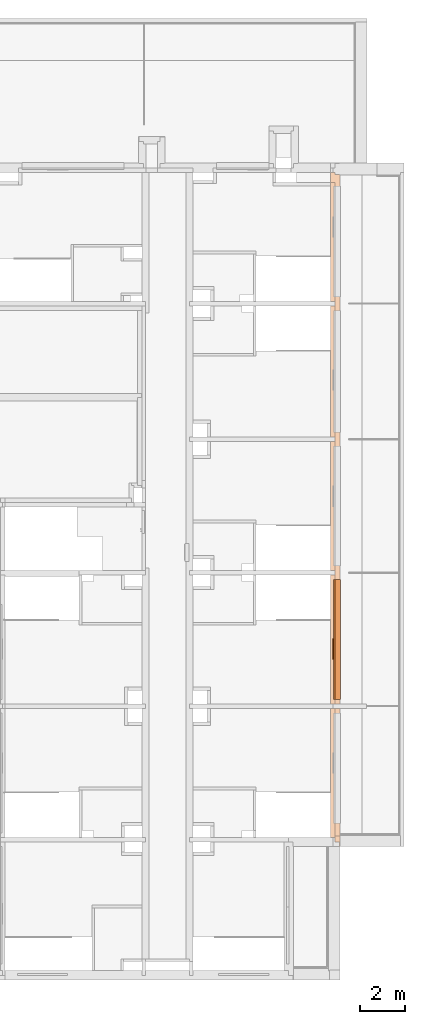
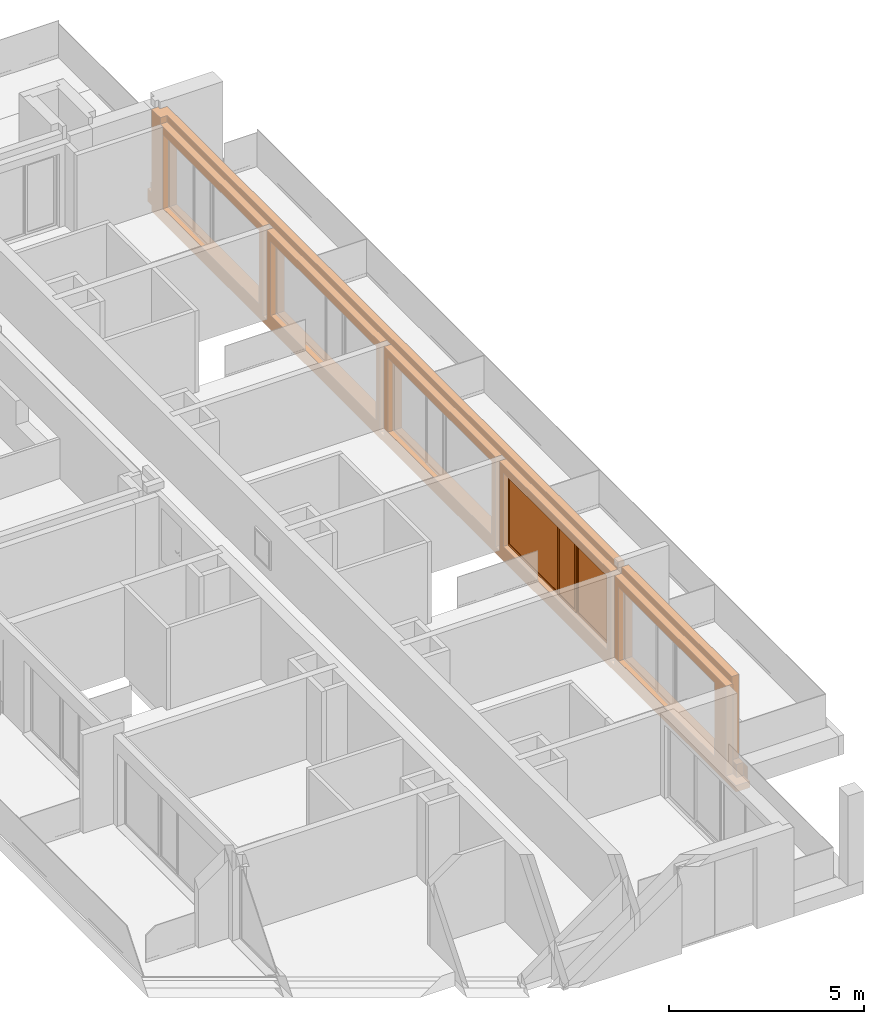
# One storey, part 13 of 30: 1 proxy, 5 openings, plus 1 element that does not belong to this part.
"""IFC2X3 building model written with IfcOpenShell, lengths in millimetres."""

import ifcopenshell
import ifcopenshell.guid

model = None  # the IFC model being written
_history = None  # IfcOwnerHistory: only IFC2X3 demands one
_inside = {}  # id of a spatial element -> (the spatial element, [elements in it])
_under = {}  # id of a project, library or spatial element -> (it, [spatial elements below it])
_declared = {}  # id of a project -> (the project, [libraries it declares])
_typed = {}  # id of a type object -> (the type object, [elements of that type])
_made_of = {}  # id of a material, layer set ... -> (it, [elements and type objects made of it])


def new_model(schema):
    """Start an empty IFC model of exactly this schema.

    Asked for "IFC4X3", IfcOpenShell would pick the latest addendum, in which some entities
    have other attributes; the version numbers below select the first issue.
    IFC2X3 requires an IfcOwnerHistory on every rooted entity: one is made here for all.
    """
    global model, _history
    if schema == "IFC4X3":
        model = ifcopenshell.file(schema_version=(4, 3, 0, 0))
    else:
        model = ifcopenshell.file(schema=schema)
    _inside.clear()
    _under.clear()
    _declared.clear()
    _typed.clear()
    _made_of.clear()
    _history = None
    if model.schema == "IFC2X3":
        org = make("IfcOrganization", Name="unknown")
        user = make(
            "IfcPersonAndOrganization",
            ThePerson=make("IfcPerson", FamilyName="unknown"),
            TheOrganization=org,
        )
        app = make(
            "IfcApplication",
            ApplicationDeveloper=org,
            Version="unknown",
            ApplicationFullName="unknown",
            ApplicationIdentifier="unknown",
        )
        _history = make(
            "IfcOwnerHistory",
            OwningUser=user,
            OwningApplication=app,
            ChangeAction="ADDED",
            CreationDate=0,
        )
    return model


def make(cls, **values):
    """One entity of the class cls with the attributes given. An attribute that is None is left unset."""
    return model.create_entity(
        cls, **{name: value for name, value in values.items() if value is not None}
    )


def entity(cls, *values):
    """Any entity or typed value of the class cls, its attributes in the order of the schema. None: left unset."""
    e = model.create_entity(cls)
    for i, value in enumerate(values):
        if value is not None:
            e[i] = value
    return e


def rooted(cls, **values):
    """An entity with a GlobalId (a new one), such as an element, a storey or a relation."""
    return make(cls, GlobalId=ifcopenshell.guid.new(), OwnerHistory=_history, **values)


def si_unit(unit_type, name, prefix=None):
    """IfcSIUnit, for example si_unit("LENGTHUNIT", "METRE", prefix="MILLI")."""
    return make("IfcSIUnit", UnitType=unit_type, Prefix=prefix, Name=name)


def converted_unit(unit_type, name, factor, base, dimensions=None, offset=None):
    """IfcConversionBasedUnit, such as the inch: factor (a typed value) times the base unit."""
    return make(
        "IfcConversionBasedUnit"
        if offset is None
        else "IfcConversionBasedUnitWithOffset",
        ConversionOffset=offset,
        Dimensions=None
        if dimensions is None
        else entity("IfcDimensionalExponents", *dimensions),
        UnitType=unit_type,
        Name=name,
        ConversionFactor=make(
            "IfcMeasureWithUnit", ValueComponent=factor, UnitComponent=base
        ),
    )


def derived_unit(unit_type, elements):
    """IfcDerivedUnit: a product of units, each with its exponent."""
    return make(
        "IfcDerivedUnit",
        Elements=[
            make("IfcDerivedUnitElement", Unit=unit, Exponent=power)
            for unit, power in elements
        ],
        UnitType=unit_type,
    )


def money_unit(currency):
    """IfcMonetaryUnit."""
    return make("IfcMonetaryUnit", Currency=currency)


def assignment(units):
    """IfcUnitAssignment: the units of a project."""
    return None if units is None else make("IfcUnitAssignment", Units=units)


def point(xyz):
    """IfcCartesianPoint."""
    return None if xyz is None else make("IfcCartesianPoint", Coordinates=xyz)


def direction(xyz):
    """IfcDirection."""
    return None if xyz is None else make("IfcDirection", DirectionRatios=xyz)


def frame(location, z_axis=None, x_axis=None):
    """IfcAxis2Placement3D, a coordinate frame: its origin and axes. An axis left out is left unset."""
    return make(
        "IfcAxis2Placement3D",
        Location=point(location),
        Axis=direction(z_axis),
        RefDirection=direction(x_axis),
    )


def frame_2d(location, x_axis=None):
    """IfcAxis2Placement2D, a coordinate frame in the plane: its origin and x axis."""
    return make(
        "IfcAxis2Placement2D", Location=point(location), RefDirection=direction(x_axis)
    )


def origin_with_axes():
    """The frame at (0, 0, 0) with the z axis (0, 0, 1) and the x axis (1, 0, 0) written out."""
    return frame((0.0, 0.0, 0.0), z_axis=(0.0, 0.0, 1.0), x_axis=(1.0, 0.0, 0.0))


def origin_2d_with_axis():
    """The frame at (0, 0) in the plane with the x axis (1, 0) written out."""
    return frame_2d((0.0, 0.0), x_axis=(1.0, 0.0))


def place(relative_to, where):
    """IfcLocalPlacement: puts the frame where relative to a parent placement (None: the world)."""
    return make(
        "IfcLocalPlacement", PlacementRelTo=relative_to, RelativePlacement=where
    )


def context(
    kind, dimensions, precision=None, world=None, true_north=None, identifier=None
):
    """IfcGeometricRepresentationContext, for example the 3D "Model" context."""
    return make(
        "IfcGeometricRepresentationContext",
        ContextIdentifier=identifier,
        ContextType=kind,
        CoordinateSpaceDimension=dimensions,
        Precision=precision,
        WorldCoordinateSystem=world,
        TrueNorth=true_north,
    )


def subcontext(parent, identifier, kind, view, scale=None):
    """IfcGeometricRepresentationSubContext, for example "Body" below "Model"."""
    return make(
        "IfcGeometricRepresentationSubContext",
        ContextIdentifier=identifier,
        ContextType=kind,
        ParentContext=parent,
        TargetScale=scale,
        TargetView=view,
    )


def project(units=None, contexts=None):
    """IfcProject with its units and contexts."""
    return rooted(
        "IfcProject",
        Name="project",
        RepresentationContexts=contexts,
        UnitsInContext=assignment(units),
    )


def spatial(cls, under=None, at=None, **own):
    """A site, building, storey or space (cls), placed at a placement, below another one or the project."""
    s = rooted(cls, ObjectPlacement=at, **own)
    if under is not None:
        _under.setdefault(under.id(), (under, []))[1].append(s)
    return s


def profile(cls, at=None, kind="AREA", **sizes):
    """A parametric profile (cls). Its sizes go by their IFC names, for example OverallWidth=200.0."""
    return make(cls, ProfileType=kind, Position=at, **sizes)


def rectangle(**sizes):
    """IfcRectangleProfileDef."""
    return profile("IfcRectangleProfileDef", **sizes)


def extrude(swept, where, along, depth):
    """IfcExtrudedAreaSolid: the profile swept, set in the frame where, extruded along a direction by depth."""
    return make(
        "IfcExtrudedAreaSolid",
        SweptArea=swept,
        Position=where,
        ExtrudedDirection=direction(along),
        Depth=depth,
    )


def faces_of(points, faces, orient=None, outer=None):
    """IfcFace entities. A face is a list of loops; a loop is a list of indices into points, from 0.

    orient and outer hold one flag for each loop. By default every Orientation is true, the
    first loop of a face is its IfcFaceOuterBound and the others are IfcFaceBound.
    """
    made = []
    for i, loops in enumerate(faces):
        bounds = []
        for j, loop in enumerate(loops):
            is_outer = j == 0 if outer is None else outer[i][j]
            bounds.append(
                make(
                    "IfcFaceOuterBound" if is_outer else "IfcFaceBound",
                    Bound=make("IfcPolyLoop", Polygon=[points[k] for k in loop]),
                    Orientation=True if orient is None else orient[i][j],
                )
            )
        made.append(make("IfcFace", Bounds=bounds))
    return made


def open_shell(faces, orient=None, outer=None):
    """The faces of one IfcOpenShell. surface_model builds it on its shared points."""
    return ("IfcOpenShell", faces, orient, outer)


def faceted_brep(points, faces, orient=None, outer=None, voids=None):
    """IfcFacetedBrep: a solid bounded by flat faces; with voids (closed shells), ...WithVoids."""
    shared = [point(p) for p in points]
    hull = make("IfcClosedShell", CfsFaces=faces_of(shared, faces, orient, outer))
    if voids is None:
        return make("IfcFacetedBrep", Outer=hull)
    return make(
        "IfcFacetedBrepWithVoids",
        Outer=hull,
        Voids=[
            make(cls, CfsFaces=faces_of(shared, fs, o, b)) for cls, fs, o, b in voids
        ],
    )


def surface_model(cls, points, shells):
    """IfcFaceBasedSurfaceModel or IfcShellBasedSurfaceModel (cls): surfaces that need not close."""
    shared = [point(p) for p in points]
    made = [make(c, CfsFaces=faces_of(shared, fs, o, b)) for c, fs, o, b in shells]
    if cls == "IfcFaceBasedSurfaceModel":
        return make(cls, FbsmFaces=made)
    return make(cls, SbsmBoundary=made)


def shape(context_of_items, identifier, shape_type, items):
    """IfcShapeRepresentation: the items that make up one representation, for example the "Body"."""
    return make(
        "IfcShapeRepresentation",
        ContextOfItems=context_of_items,
        RepresentationIdentifier=identifier,
        RepresentationType=shape_type,
        Items=items,
    )


def source(mapping_origin, context_of_items, identifier, shape_type, items):
    """IfcRepresentationMap: a shape defined once, which mapped items show again and again."""
    return make(
        "IfcRepresentationMap",
        MappingOrigin=mapping_origin,
        MappedRepresentation=shape(context_of_items, identifier, shape_type, items),
    )


def transform(
    local_origin,
    x_axis=None,
    y_axis=None,
    z_axis=None,
    scale=None,
    scale2=None,
    scale3=None,
    uniform=True,
):
    """IfcCartesianTransformationOperator3D, or its non-uniform kind. x_axis, y_axis, z_axis: its Axis1, 2, 3."""
    if uniform:
        return make(
            "IfcCartesianTransformationOperator3D",
            Axis1=direction(x_axis),
            Axis2=direction(y_axis),
            LocalOrigin=point(local_origin),
            Scale=scale,
            Axis3=direction(z_axis),
        )
    return make(
        "IfcCartesianTransformationOperator3DnonUniform",
        Axis1=direction(x_axis),
        Axis2=direction(y_axis),
        LocalOrigin=point(local_origin),
        Scale=scale,
        Axis3=direction(z_axis),
        Scale2=scale2,
        Scale3=scale3,
    )


def mapped(mapping_source, mapping_target):
    """IfcMappedItem: shows the shape of a source again, moved by a transform."""
    return make(
        "IfcMappedItem", MappingSource=mapping_source, MappingTarget=mapping_target
    )


def material(Name=None, Category=None):
    """IfcMaterial."""
    return make("IfcMaterial", Name=Name, Category=Category)


def material_list(materials):
    """IfcMaterialList."""
    return make("IfcMaterialList", Materials=materials)


def made_of(thing, what):
    """Note that an element or type object is made of a material, layer set ...; save() writes the relation."""
    if what is not None:
        _made_of.setdefault(what.id(), (what, []))[1].append(thing)
    return thing


def type_object(cls, material=None, **own):
    """A type object (cls), such as IfcWallType, which elements share."""
    return made_of(rooted(cls, **own), material)


def element(
    cls,
    number,
    at=None,
    inside=None,
    cuts=None,
    type_object=None,
    material=None,
    context=None,
    identifier="Body",
    shape_type=None,
    held_by="IfcProductDefinitionShape",
    body=None,
    shapes=None,
    **own,
):
    """One element of the class cls, such as IfcWall. Its Tag is "e" and its number.

    at: its placement. inside: the storey or other place that contains it. cuts: it is an
    opening in that element (IfcRelVoidsElement). A single representation is given by context,
    identifier, shape_type and body (its items); several are given by shapes. held_by: the class
    of the entity that holds the representations. save() writes the other relations.
    """
    e = rooted(cls, Tag="e%d" % number, ObjectPlacement=at, **own)
    if body is not None:
        shapes = [shape(context, identifier, shape_type, body)]
    if shapes is not None:
        e.Representation = make(held_by, Representations=shapes)
    if inside is not None:
        _inside.setdefault(inside.id(), (inside, []))[1].append(e)
    if cuts is not None:
        rooted(
            "IfcRelVoidsElement", RelatingBuildingElement=cuts, RelatedOpeningElement=e
        )
    if type_object is not None:
        _typed.setdefault(type_object.id(), (type_object, []))[1].append(e)
    return made_of(e, material)


def fill(opening, filler):
    """IfcRelFillsElement: the door or window that sits in an opening."""
    return rooted(
        "IfcRelFillsElement",
        RelatingOpeningElement=opening,
        RelatedBuildingElement=filler,
    )


def aggregate(whole, parts):
    """IfcRelAggregates: a whole, such as a stair, and the parts it consists of."""
    return rooted("IfcRelAggregates", RelatingObject=whole, RelatedObjects=parts)


def save(model, path):
    """Write the relations noted so far, then the file.

    IfcRelAggregates (storeys below a building ...), IfcRelContainedInSpatialStructure (elements
    in a storey), IfcRelDefinesByType, IfcRelAssociatesMaterial and IfcRelDeclares: one each for
    every whole, place, type object, material and project.
    """
    for whole, parts in _under.values():
        aggregate(whole, parts)
    for where, things in _inside.values():
        rooted(
            "IfcRelContainedInSpatialStructure",
            RelatedElements=things,
            RelatingStructure=where,
        )
    for kind, things in _typed.values():
        rooted("IfcRelDefinesByType", RelatedObjects=things, RelatingType=kind)
    for what, things in _made_of.values():
        rooted("IfcRelAssociatesMaterial", RelatedObjects=things, RelatingMaterial=what)
    for by, libraries in _declared.values():
        rooted("IfcRelDeclares", RelatingContext=by, RelatedDefinitions=libraries)
    model.write(path)


model = new_model("IFC2X3")

# Units and contexts
model_context = context("Model", 3, precision=0.01, world=origin_with_axes(), true_north=direction((0.34421633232, 0.938890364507)))
body_context = subcontext(model_context, "Body", "Model", "MODEL_VIEW")
ifc_project = project(units=[si_unit("LENGTHUNIT", "METRE", prefix="MILLI"), si_unit("AREAUNIT", "SQUARE_METRE"), si_unit("VOLUMEUNIT", "CUBIC_METRE"), converted_unit("PLANEANGLEUNIT", "DEGREE", entity("IfcPlaneAngleMeasure", 0.0174532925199), si_unit("PLANEANGLEUNIT", "RADIAN"), dimensions=[0, 0, 0, 0, 0, 0, 0]), si_unit("SOLIDANGLEUNIT", "STERADIAN"), money_unit("USD"), converted_unit("TIMEUNIT", "Year", entity("IfcTimeMeasure", 31556926.0), si_unit("TIMEUNIT", "SECOND"), dimensions=[0, 0, 1, 0, 0, 0, 0]), si_unit("MASSUNIT", "GRAM", prefix="KILO"), si_unit("THERMODYNAMICTEMPERATUREUNIT", "DEGREE_CELSIUS"), si_unit("LUMINOUSINTENSITYUNIT", "LUMEN"), si_unit("ENERGYUNIT", "JOULE", prefix="MEGA"), derived_unit("THERMALCONDUCTANCEUNIT", [(si_unit("POWERUNIT", "WATT"), 1), (si_unit("LENGTHUNIT", "METRE"), -1), (si_unit("THERMODYNAMICTEMPERATUREUNIT", "KELVIN"), -1)]), derived_unit("SPECIFICHEATCAPACITYUNIT", [(si_unit("ENERGYUNIT", "JOULE"), 1), (si_unit("MASSUNIT", "GRAM", prefix="KILO"), -1), (si_unit("THERMODYNAMICTEMPERATUREUNIT", "KELVIN"), -1)]), derived_unit("MASSDENSITYUNIT", [(si_unit("MASSUNIT", "GRAM", prefix="KILO"), 1), (si_unit("VOLUMEUNIT", "CUBIC_METRE"), -1)])], contexts=[model_context])

# Site, building, storey
site_placement = place(None, origin_with_axes())
site = spatial("IfcSite", under=ifc_project, at=site_placement, Name="USTRONIE MORSKIE", CompositionType="ELEMENT")
building_placement = place(site_placement, origin_with_axes())
building = spatial("IfcBuilding", under=site, at=building_placement, Name="Budynek", CompositionType="ELEMENT")
storey_placement = place(building_placement, frame((0.0, 0.0, 16000.0), z_axis=(0.0, 0.0, 1.0), x_axis=(1.0, 0.0, 0.0)))
storey = spatial("IfcBuildingStorey", under=building, at=storey_placement, Name="ANTRESOLA - KOND. TECHNICZNA", CompositionType="ELEMENT", Elevation=16000.0)

# Proxies, openings
ifc_material_1 = material(Name="Tynk zewnętrzny")
ifc_material_2 = material(Name="Wełna ELEW")
ifc_material_3 = material(Name="Beton konstrukcyjny B25")
ifc_material_list = material_list([ifc_material_1, ifc_material_2, ifc_material_3])
building_element_proxy_type_1 = type_object("IfcBuildingElementProxyType", Name="20+20 410", PredefinedType="NOTDEFINED")
proxy_1_placement = place(storey_placement, frame((424367.920919, 744701.199036, -360.0), z_axis=(0.0, 0.0, 1.0), x_axis=(0.0, -1.0, 0.0)))
proxy_1 = element("IfcBuildingElementProxy", 1, at=proxy_1_placement, inside=storey, type_object=building_element_proxy_type_1, material=ifc_material_list, Name="SZ-01", context=body_context, shape_type="Brep", body=[
    faceted_brep([(29500.0, 310.0, 439.99999792), (-99.9999999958, 310.0, 440.0), (-309.999999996, 310.0, 440.0), (-310.0, 310.0, 600.0), (210.0, 310.0, 600.0), (210.0, 310.0, 3200.0), (23599.9910173, 310.0, 3200.0), (23599.9910956, 310.0, 470.0), (23799.9910956, 310.0, 470.0), (23799.9910173, 310.0, 3200.0), (29440.0, 310.0, 3200.0), (29440.0, 310.0, 600.0), (29900.0, 310.0, 600.0), (29900.0, 310.0, 199.999997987), (29910.0, 310.0, 199.999997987), (30010.0, 310.0, 199.999997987), (30010.0, 310.0, 0.0), (29500.0, 310.0, -2.07958272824e-06), (29500.0, 310.0, 199.99999792), (29500.0, 310.0, 204.99999792), (29500.0, 310.0, 354.99999792), (29500.0, 310.0, 414.99999792), (-309.999999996, 300.0, 440.0), (29500.0, 300.0, 439.99999792), (-310.0, 300.0, 600.0), (210.0, 300.0, 600.0), (210.0, 300.0, 3200.0), (23599.9910173, 300.0, 3200.0), (23599.9910962, 300.0, 470.0), (23799.9910962, 300.0, 470.0), (23799.9910173, 300.0, 3200.0), (29440.0, 300.0, 3200.0), (29440.0, 300.0, 600.0), (29900.0, 300.0, 600.0), (29900.0, 300.0, 199.999997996), (29910.0, 300.0, 199.999997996), (30010.0, 300.0, 199.999997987), (30010.0, 300.0, 0.0), (29500.0, 300.0, -2.07958272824e-06), (29500.0, 300.0, 199.99999792), (29500.0, 300.0, 204.99999792), (29500.0, 300.0, 354.99999792), (29500.0, 300.0, 414.99999792)], [[[0, 1, 2, 3, 4, 5, 6, 7, 8, 9, 10, 11, 12, 13, 14, 15, 16, 17, 18, 19, 20, 21]], [[22, 2, 1, 0, 23]], [[2, 22, 24, 3]], [[24, 25, 4, 3]], [[25, 26, 5, 4]], [[6, 5, 26, 27]], [[27, 28, 7, 6]], [[29, 8, 7, 28]], [[9, 8, 29, 30]], [[30, 31, 10, 9]], [[11, 10, 31, 32]], [[33, 12, 11, 32]], [[13, 12, 33, 34]], [[35, 14, 13, 34]], [[15, 14, 35, 36]], [[37, 16, 15, 36]], [[38, 17, 16, 37]], [[39, 18, 17, 38]], [[40, 19, 18, 39]], [[41, 20, 19, 40]], [[42, 21, 20, 41]], [[0, 21, 42, 23]], [[23, 42, 41, 40, 39, 38, 37, 36, 35, 34, 33, 32, 31, 30, 29, 28, 27, 26, 25, 24, 22]]]),
    faceted_brep([(29500.0, 300.0, 414.99999792), (29500.0, 300.0, 439.99999792), (-299.999999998, 300.0, 439.99999792), (-300.0, 300.0, 600.0), (200.0, 300.0, 600.0), (200.0, 300.0, 3200.0), (23599.9910173, 300.0, 3200.0), (23599.9910962, 300.0, 470.0), (23799.9910962, 300.0, 470.0), (23799.9910173, 300.0, 3200.0), (29450.0, 300.0, 3200.0), (29450.0, 300.0, 600.0), (29700.0, 300.0, 600.0), (29700.0, 300.0, 199.999997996), (29910.0, 300.0, 199.999997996), (30010.0, 300.0, 199.999997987), (30010.0, 300.0, 0.0), (29500.0, 300.0, -2.07958272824e-06), (29500.0, 300.0, 199.99999792), (29500.0, 300.0, 204.99999792), (29500.0, 300.0, 354.99999792), (29500.0, 99.9999999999, 414.99999792), (29500.0, 99.9999999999, 439.99999792), (-299.999999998, 100.0, 439.99999792), (-99.9999999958, 99.9999999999, 439.99999792), (-300.0, 100.0, 600.0), (200.0, 100.0, 600.0), (200.0, 100.0, 3200.0), (23599.9910173, 100.0, 3200.0), (23599.9911094, 100.0, 470.0), (23799.9911094, 100.0, 470.0), (23799.9910173, 100.0, 3200.0), (29450.0, 100.0, 3200.0), (29450.0, 100.0, 600.0), (29700.0, 100.0, 600.0), (29700.0, 100.0, 199.999998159), (29910.0, 100.0, 199.999998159), (30010.0, 100.0, 199.999997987), (30010.0, 100.0, 0.0), (29500.0, 99.9999999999, -2.07958272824e-06), (29500.0, 99.9999999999, 199.99999792), (29500.0, 99.9999999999, 204.99999792), (29500.0, 99.9999999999, 354.99999792)], [[[0, 1, 2, 3, 4, 5, 6, 7, 8, 9, 10, 11, 12, 13, 14, 15, 16, 17, 18, 19, 20]], [[1, 0, 21, 22]], [[23, 2, 1, 22, 24]], [[2, 23, 25, 3]], [[25, 26, 4, 3]], [[26, 27, 5, 4]], [[6, 5, 27, 28]], [[28, 29, 7, 6]], [[30, 8, 7, 29]], [[9, 8, 30, 31]], [[31, 32, 10, 9]], [[11, 10, 32, 33]], [[34, 12, 11, 33]], [[13, 12, 34, 35]], [[14, 13, 35, 36]], [[15, 14, 36, 37]], [[38, 16, 15, 37]], [[39, 17, 16, 38]], [[40, 18, 17, 39]], [[41, 19, 18, 40]], [[42, 20, 19, 41]], [[21, 0, 20, 42]], [[22, 21, 42, 41, 40, 39, 38, 37, 36, 35, 34, 33, 32, 31, 30, 29, 28, 27, 26, 25, 23, 24]]]),
    faceted_brep([(23799.9910111, -100.0, 3000.0), (23799.9910234, 100.0, 3000.0), (23799.9911094, 100.0, 200.0), (23799.9909252, -100.0, 200.0), (29500.0, 100.0, 3000.0), (29500.0, -100.0, 3000.0), (29500.0, 0.0, 3000.0), (550.000000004, 100.0, 3000.0), (5799.99390061, 100.0, 3000.0), (5799.99390061, 100.0, 200.0), (5999.99390061, 100.0, 200.0), (5999.99390061, 100.0, 3000.0), (11800.0, 100.0, 3000.0), (11800.0, 100.0, 200.0), (12000.0, 100.0, 200.0), (12000.0, 100.0, 3000.0), (17700.0, 100.0, 3000.0), (17700.0, 100.0, 200.0), (17900.0, 100.0, 200.0), (17900.0, 100.0, 3000.0), (23599.9910234, 100.0, 3000.0), (23599.9911094, 100.0, 200.0), (29500.0, 100.0, 199.999998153), (29910.0, 100.0, 199.999998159), (30010.0, 100.0, 199.999997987), (30010.0, 100.0, 0.0), (100.000000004, 100.0, 0.0), (100.000000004, 100.0, 200.0), (-99.999999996, 100.0, 200.0), (-100.0, 100.0, 600.0), (99.9999999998, 100.0, 600.0), (99.9999999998, 100.0, 3200.0), (550.000000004, 100.0, 3200.0), (23599.9909252, -100.0, 200.0), (550.000000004, -100.0, 3000.0), (550.000000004, -100.0, 3200.0), (99.9999999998, -100.0, 3200.0), (99.9999999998, -100.0, 600.0), (-100.0, -100.0, 600.0), (-99.999999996, -100.0, 200.0), (100.000000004, -100.0, 200.0), (100.000000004, -100.0, 0.0), (30010.0, -100.0, 0.0), (30010.0, -100.0, 199.999997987), (29910.0, -100.0, 199.999998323), (29500.0, -100.0, 199.99999831), (29500.0, -100.0, 600.0), (23599.9910111, -100.0, 3000.0), (17900.0, -100.0, 3000.0), (17900.0, -100.0, 200.0), (17700.0, -100.0, 200.0), (17700.0, -100.0, 3000.0), (12000.0, -100.0, 3000.0), (12000.0, -100.0, 200.0), (11800.0, -100.0, 200.0), (11800.0, -100.0, 3000.0), (5999.99390061, -100.0, 3000.0), (5999.99390061, -100.0, 200.0), (5799.99390061, -100.0, 200.0), (5799.99390061, -100.0, 3000.0), (29500.0, 0.0, 600.0)], [[[0, 1, 2, 3]], [[4, 1, 0, 5, 6]], [[7, 8, 9, 10, 11, 12, 13, 14, 15, 16, 17, 18, 19, 20, 21, 2, 1, 4, 22, 23, 24, 25, 26, 27, 28, 29, 30, 31, 32]], [[3, 2, 21, 33]], [[34, 35, 36, 37, 38, 39, 40, 41, 42, 43, 44, 45, 46, 5, 0, 3, 33, 47, 48, 49, 50, 51, 52, 53, 54, 55, 56, 57, 58, 59]], [[46, 60, 6, 5]], [[60, 46, 45, 22, 4, 6]], [[8, 7, 34, 59]], [[8, 59, 58, 9]], [[57, 10, 9, 58]], [[56, 11, 10, 57]], [[12, 11, 56, 55]], [[12, 55, 54, 13]], [[53, 14, 13, 54]], [[52, 15, 14, 53]], [[16, 15, 52, 51]], [[16, 51, 50, 17]], [[49, 18, 17, 50]], [[48, 19, 18, 49]], [[20, 19, 48, 47]], [[20, 47, 33, 21]], [[23, 22, 45, 44]], [[24, 23, 44, 43]], [[42, 25, 24, 43]], [[42, 41, 26, 25]], [[40, 27, 26, 41]], [[40, 39, 28, 27]], [[39, 38, 29, 28]], [[37, 30, 29, 38]], [[37, 36, 31, 30]], [[35, 32, 31, 36]], [[7, 32, 35, 34]]]),
])
opening_1_placement = place(proxy_1_placement, frame((3150.00011999, 0.0, 450.0), z_axis=(0.0, 0.0, 1.0), x_axis=(1.0, 0.0, 0.0)))
element("IfcOpeningElement", 2, at=opening_1_placement, cuts=proxy_1, Name="Wz.06", context=body_context, shape_type="SweptSolid", body=[
    extrude(rectangle(XDim=4900.00023997, YDim=2300.0, at=origin_2d_with_axis()), frame((0.0, 100.0, 1150.0), z_axis=(0.0, -1.0, 0.0), x_axis=(-1.0, 0.0, 0.0)), (0.0, 0.0, -1.0), 620.0),
    extrude(rectangle(XDim=4900.00023997, YDim=2300.0, at=origin_2d_with_axis()), frame((0.0, 100.0, 1150.0), z_axis=(0.0, 1.0, 0.0), x_axis=(-1.0, 0.0, 0.0)), (0.0, 0.0, -1.0), 610.0),
])
opening_2_placement = place(proxy_1_placement, frame((8899.99378063, 0.0, 450.0), z_axis=(0.0, 0.0, 1.0), x_axis=(1.0, 0.0, 0.0)))
element("IfcOpeningElement", 3, at=opening_2_placement, cuts=proxy_1, Name="Wz.06", context=body_context, shape_type="SweptSolid", body=[
    extrude(rectangle(XDim=5400.01243876, YDim=2300.0, at=origin_2d_with_axis()), frame((0.0, 100.0, 1150.0), z_axis=(0.0, 1.0, 0.0), x_axis=(1.0, 0.0, 0.0)), (0.0, 0.0, 1.0), 620.0),
    extrude(rectangle(XDim=5400.01243876, YDim=2300.0, at=origin_2d_with_axis()), frame((0.0, 100.0, 1150.0), z_axis=(0.0, -1.0, 0.0), x_axis=(1.0, 0.0, 0.0)), (0.0, 0.0, 1.0), 610.0),
])
opening_3_placement = place(proxy_1_placement, frame((14849.9998966, 0.0, 450.0), z_axis=(0.0, 0.0, 1.0), x_axis=(1.0, 0.0, 0.0)))
element("IfcOpeningElement", 4, at=opening_3_placement, cuts=proxy_1, Name="Wz.06", context=body_context, shape_type="SweptSolid", body=[
    extrude(rectangle(XDim=5299.99979318, YDim=2300.0, at=origin_2d_with_axis()), frame((0.0, 100.0, 1150.0), z_axis=(0.0, -1.0, 0.0), x_axis=(-1.0, 0.0, 0.0)), (0.0, 0.0, -1.0), 620.0),
    extrude(rectangle(XDim=5299.99979318, YDim=2300.0, at=origin_2d_with_axis()), frame((0.0, 100.0, 1150.0), z_axis=(0.0, 1.0, 0.0), x_axis=(-1.0, 0.0, 0.0)), (0.0, 0.0, -1.0), 610.0),
])
opening_4_placement = place(proxy_1_placement, frame((20750.0001034, 0.0, 450.0), z_axis=(0.0, 0.0, 1.0), x_axis=(1.0, 0.0, 0.0)))
opening_4 = element("IfcOpeningElement", 5, at=opening_4_placement, cuts=proxy_1, Name="Wz.06", context=body_context, shape_type="SweptSolid", body=[
    extrude(rectangle(XDim=5299.99979318, YDim=2300.0, at=origin_2d_with_axis()), frame((0.0, 100.0, 1150.0), z_axis=(0.0, 1.0, 0.0), x_axis=(1.0, 0.0, 0.0)), (0.0, 0.0, 1.0), 620.0),
    extrude(rectangle(XDim=5299.99979318, YDim=2300.0, at=origin_2d_with_axis()), frame((0.0, 100.0, 1150.0), z_axis=(0.0, -1.0, 0.0), x_axis=(1.0, 0.0, 0.0)), (0.0, 0.0, 1.0), 610.0),
])
opening_5_placement = place(proxy_1_placement, frame((26449.9910173, 0.0, 450.0), z_axis=(0.0, 0.0, 1.0), x_axis=(1.0, 0.0, 0.0)))
element("IfcOpeningElement", 6, at=opening_5_placement, cuts=proxy_1, Name="Wz.06", context=body_context, shape_type="SweptSolid", body=[
    extrude(rectangle(XDim=4900.01796547, YDim=2300.0, at=origin_2d_with_axis()), frame((0.0, 100.0, 1150.0), z_axis=(0.0, -1.0, 0.0), x_axis=(-1.0, 0.0, 0.0)), (0.0, 0.0, -1.0), 620.0),
    extrude(rectangle(XDim=4900.01796547, YDim=2300.0, at=origin_2d_with_axis()), frame((0.0, 100.0, 1150.0), z_axis=(0.0, 1.0, 0.0), x_axis=(-1.0, 0.0, 0.0)), (0.0, 0.0, -1.0), 610.0),
])
building_element_proxy_type_2 = type_object("IfcBuildingElementProxyType", Name="Okno potrójne 23", PredefinedType="NOTDEFINED")
shared_shape = source(origin_with_axes(), body_context, "Body", "SurfaceModel", [
    faceted_brep([(2649.99989659, -65.0, 5.0), (2649.99989659, -65.0, 30.0), (2649.99989659, -275.0, 18.9943663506), (2649.99989659, -275.0, 5.0), (-2649.99989659, -65.0, 5.0), (-2649.99989659, -65.0, 30.0), (-2649.99989659, -275.0, 18.9943663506), (-2649.99989659, -305.0, 17.4221329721), (2649.99989659, -305.0, 17.4221329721), (2649.99989659, -305.0, 5.0), (-2649.99989659, -305.0, 5.0), (-2649.99989659, -275.0, 5.0)], [[[0, 1, 2, 3]], [[4, 5, 1, 0]], [[1, 5, 6, 7, 8, 2]], [[3, 2, 8, 9]], [[0, 3, 9, 10, 11, 4]], [[11, 6, 5, 4]], [[10, 7, 6, 11]], [[9, 8, 7, 10]]]),
    faceted_brep([(2649.99989659, -65.0, 0.0), (2649.99989659, -65.0, 5.0), (2649.99989659, -275.0, 5.0), (2649.99989659, -275.0, 0.0), (-2649.99989659, -65.0, 0.0), (-2649.99989659, -65.0, 5.0), (-2649.99989659, -275.0, 5.0), (-2649.99989659, -275.0, 0.0)], [[[0, 1, 2, 3]], [[4, 5, 1, 0]], [[1, 5, 6, 2]], [[3, 2, 6, 7]], [[0, 3, 7, 4]], [[7, 6, 5, 4]]]),
    faceted_brep([(-872.499896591, -25.0, 2230.0), (-897.499896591, -25.0, 2230.0), (-897.499896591, 0.0, 2230.0), (-937.499896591, 0.0, 2230.0), (-937.499896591, -65.0, 2230.0), (-872.499896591, -65.0, 2230.0), (-872.499896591, -25.0, 70.0), (-897.499896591, -25.0, 70.0), (-897.499896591, 0.0, 70.0), (-937.499896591, 0.0, 70.0), (-937.499896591, -65.0, 70.0), (-872.499896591, -65.0, 70.0)], [[[0, 1, 2, 3, 4, 5]], [[1, 0, 6, 7]], [[8, 2, 1, 7]], [[2, 8, 9, 3]], [[9, 10, 4, 3]], [[10, 11, 5, 4]], [[6, 0, 5, 11]], [[7, 6, 11, 10, 9, 8]]]),
    faceted_brep([(37.5001034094, 0.0, 2230.0), (37.5001034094, -25.0, 2230.0), (12.5001034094, -25.0, 2230.0), (12.5001034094, -65.0, 2230.0), (77.5001034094, -65.0, 2230.0), (77.5001034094, 0.0, 2230.0), (37.5001034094, 0.0, 70.0), (37.5001034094, -25.0, 70.0), (12.5001034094, -25.0, 70.0), (12.5001034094, -65.0, 70.0), (77.5001034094, -65.0, 70.0), (77.5001034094, 0.0, 70.0)], [[[0, 1, 2, 3, 4, 5]], [[1, 0, 6, 7]], [[8, 2, 1, 7]], [[2, 8, 9, 3]], [[4, 3, 9, 10]], [[5, 4, 10, 11]], [[6, 0, 5, 11]], [[7, 6, 11, 10, 9, 8]]]),
    faceted_brep([(-872.499896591, -25.0, 70.0), (-897.499896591, -25.0, 70.0), (-897.499896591, 0.0, 70.0), (-937.499896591, 0.0, 70.0), (-937.499896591, -65.0, 70.0), (-872.499896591, -65.0, 70.0), (12.5001034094, -25.0, 70.0), (37.5001034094, -25.0, 70.0), (37.5001034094, -25.0, 45.0), (-897.499896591, -25.0, 45.0), (-897.499896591, 0.0, 45.0), (37.5001034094, 0.0, 45.0), (37.5001034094, 0.0, 70.0), (77.5001034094, 0.0, 70.0), (2579.99989659, 0.0, 70.0), (2649.99989659, 0.0, 70.0), (2649.99989659, 0.0, 0.0), (-2649.99989659, 0.0, 0.0), (-2649.99989659, 0.0, 70.0), (-2579.99989659, 0.0, 70.0), (-2579.99989659, -65.0, 70.0), (2649.99989659, -65.0, 70.0), (2579.99989659, -65.0, 70.0), (77.5001034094, -65.0, 70.0), (12.5001034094, -65.0, 70.0), (-2649.99989659, -65.0, 70.0), (-2649.99989659, -65.0, 0.0), (2649.99989659, -65.0, 0.0)], [[[0, 1, 2, 3, 4, 5]], [[1, 0, 6, 7, 8, 9]], [[10, 2, 1, 9]], [[11, 12, 13, 14, 15, 16, 17, 18, 19, 3, 2, 10]], [[19, 20, 4, 3]], [[21, 22, 23, 24, 5, 4, 20, 25, 26, 27]], [[6, 0, 5, 24]], [[7, 6, 24, 23, 13, 12]], [[7, 12, 11, 8]], [[11, 10, 9, 8]], [[13, 23, 22, 14]], [[14, 22, 21, 15]], [[15, 21, 27, 16]], [[16, 27, 26, 17]], [[17, 26, 25, 18]], [[18, 25, 20, 19]]]),
    faceted_brep([(37.5001034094, 0.0, 2230.0), (37.5001034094, 0.0, 2255.0), (-897.499896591, 0.0, 2255.0), (-897.499896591, 0.0, 2230.0), (-937.499896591, 0.0, 2230.0), (-2579.99989659, 0.0, 2230.0), (-2649.99989659, 0.0, 2230.0), (-2649.99989659, 0.0, 2300.0), (2649.99989659, 0.0, 2300.0), (2649.99989659, 0.0, 2230.0), (2579.99989659, 0.0, 2230.0), (77.5001034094, 0.0, 2230.0), (37.5001034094, -25.0, 2230.0), (37.5001034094, -25.0, 2255.0), (-897.499896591, -25.0, 2255.0), (-897.499896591, -25.0, 2230.0), (-872.499896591, -25.0, 2230.0), (-872.499896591, -65.0, 2230.0), (-937.499896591, -65.0, 2230.0), (-2579.99989659, -65.0, 2230.0), (-2649.99989659, -65.0, 2230.0), (-2649.99989659, -65.0, 2300.0), (2649.99989659, -65.0, 2300.0), (2649.99989659, -65.0, 2230.0), (2579.99989659, -65.0, 2230.0), (77.5001034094, -65.0, 2230.0), (12.5001034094, -65.0, 2230.0), (12.5001034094, -25.0, 2230.0)], [[[0, 1, 2, 3, 4, 5, 6, 7, 8, 9, 10, 11]], [[1, 0, 12, 13]], [[2, 1, 13, 14]], [[3, 2, 14, 15]], [[15, 16, 17, 18, 4, 3]], [[4, 18, 19, 5]], [[5, 19, 20, 6]], [[6, 20, 21, 7]], [[7, 21, 22, 8]], [[8, 22, 23, 9]], [[9, 23, 24, 10]], [[10, 24, 25, 11]], [[12, 0, 11, 25, 26, 27]], [[16, 15, 14, 13, 12, 27]], [[16, 27, 26, 17]], [[26, 25, 24, 23, 22, 21, 20, 19, 18, 17]]]),
    faceted_brep([(2579.99989659, -65.0, 2230.0), (2649.99989659, -65.0, 2230.0), (2649.99989659, 0.0, 2230.0), (2579.99989659, 0.0, 2230.0), (2579.99989659, -65.0, 70.0), (2649.99989659, -65.0, 70.0), (2649.99989659, 0.0, 70.0), (2579.99989659, 0.0, 70.0)], [[[0, 1, 2, 3]], [[0, 4, 5, 1]], [[1, 5, 6, 2]], [[3, 2, 6, 7]], [[4, 0, 3, 7]], [[5, 4, 7, 6]]]),
    faceted_brep([(-2579.99989659, -65.0, 70.0), (-2649.99989659, -65.0, 70.0), (-2649.99989659, 0.0, 70.0), (-2579.99989659, 0.0, 70.0), (-2579.99989659, -65.0, 2230.0), (-2649.99989659, -65.0, 2230.0), (-2649.99989659, 0.0, 2230.0), (-2579.99989659, 0.0, 2230.0)], [[[0, 1, 2, 3]], [[0, 4, 5, 1]], [[1, 5, 6, 2]], [[3, 2, 6, 7]], [[4, 0, 3, 7]], [[5, 4, 7, 6]]]),
    surface_model("IfcShellBasedSurfaceModel", [(2579.99989659, -35.0, 70.0), (2579.99989659, -35.0, 2230.0), (77.5001034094, -35.0, 2230.0), (77.5001034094, -35.0, 70.0)], [open_shell([[[0, 1, 2, 3]]])]),
    surface_model("IfcShellBasedSurfaceModel", [(2579.99989659, -15.0, 70.0), (77.5001034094, -15.0, 70.0), (77.5001034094, -15.0, 2230.0), (2579.99989659, -15.0, 2230.0)], [open_shell([[[0, 1, 2, 3]]])]),
    faceted_brep([(-27.4998965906, -25.0, 2190.0), (37.5001034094, -25.0, 2190.0), (37.5001034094, 40.0, 2190.0), (-27.4998965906, 40.0, 2190.0), (-27.4998965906, -25.0, 110.0), (37.5001034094, -25.0, 110.0), (37.5001034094, 40.0, 110.0), (-27.4998965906, 40.0, 110.0)], [[[0, 1, 2, 3]], [[0, 4, 5, 1]], [[1, 5, 6, 2]], [[3, 2, 6, 7]], [[4, 0, 3, 7]], [[5, 4, 7, 6]]]),
    faceted_brep([(-832.499896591, -25.0, 110.0), (-897.499896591, -25.0, 110.0), (-897.499896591, 40.0, 110.0), (-832.499896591, 40.0, 110.0), (-832.499896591, -25.0, 2190.0), (-897.499896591, -25.0, 2190.0), (-897.499896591, 40.0, 2190.0), (-832.499896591, 40.0, 2190.0)], [[[0, 1, 2, 3]], [[0, 4, 5, 1]], [[1, 5, 6, 2]], [[3, 2, 6, 7]], [[4, 0, 3, 7]], [[5, 4, 7, 6]]]),
    faceted_brep([(-897.499896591, -25.0, 45.0), (-897.499896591, -25.0, 110.0), (-897.499896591, 40.0, 110.0), (-897.499896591, 40.0, 45.0), (37.5001034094, -25.0, 45.0), (37.5001034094, -25.0, 110.0), (-27.4998965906, -25.0, 110.0), (-832.499896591, -25.0, 110.0), (-832.499896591, 40.0, 110.0), (-27.4998965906, 40.0, 110.0), (37.5001034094, 40.0, 110.0), (37.5001034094, 40.0, 45.0)], [[[0, 1, 2, 3]], [[0, 4, 5, 6, 7, 1]], [[1, 7, 8, 2]], [[3, 2, 8, 9, 10, 11]], [[4, 0, 3, 11]], [[5, 4, 11, 10]], [[6, 5, 10, 9]], [[7, 6, 9, 8]]]),
    faceted_brep([(37.5001034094, -25.0, 2255.0), (37.5001034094, -25.0, 2190.0), (37.5001034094, 40.0, 2190.0), (37.5001034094, 40.0, 2255.0), (-897.499896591, -25.0, 2255.0), (-897.499896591, -25.0, 2190.0), (-832.499896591, -25.0, 2190.0), (-27.4998965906, -25.0, 2190.0), (-27.4998965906, 40.0, 2190.0), (-832.499896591, 40.0, 2190.0), (-897.499896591, 40.0, 2190.0), (-897.499896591, 40.0, 2255.0)], [[[0, 1, 2, 3]], [[0, 4, 5, 6, 7, 1]], [[1, 7, 8, 2]], [[3, 2, 8, 9, 10, 11]], [[4, 0, 3, 11]], [[5, 4, 11, 10]], [[6, 5, 10, 9]], [[7, 6, 9, 8]]]),
    surface_model("IfcShellBasedSurfaceModel", [(-27.4998965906, -2.5, 110.0), (-27.4998965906, -2.5, 2190.0), (-832.499896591, -2.5, 2190.0), (-832.499896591, -2.5, 110.0)], [open_shell([[[0, 1, 2, 3]]])]),
    surface_model("IfcShellBasedSurfaceModel", [(-27.4998965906, 17.5, 110.0), (-832.499896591, 17.5, 110.0), (-832.499896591, 17.5, 2190.0), (-27.4998965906, 17.5, 2190.0)], [open_shell([[[0, 1, 2, 3]]])]),
    surface_model("IfcShellBasedSurfaceModel", [(-937.499896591, -35.0, 70.0), (-937.499896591, -35.0, 2230.0), (-2579.99989659, -35.0, 2230.0), (-2579.99989659, -35.0, 70.0)], [open_shell([[[0, 1, 2, 3]]])]),
    surface_model("IfcShellBasedSurfaceModel", [(-937.499896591, -15.0, 70.0), (-2579.99989659, -15.0, 70.0), (-2579.99989659, -15.0, 2230.0), (-937.499896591, -15.0, 2230.0)], [open_shell([[[0, 1, 2, 3]]])]),
])
proxy_2_placement = place(opening_4_placement, frame((2649.99989659, 0.0, 0.0), z_axis=(0.0, 0.0, 1.0), x_axis=(-1.0, 0.0, 0.0)))
proxy_2 = element("IfcBuildingElementProxy", 7, at=proxy_2_placement, inside=storey, type_object=building_element_proxy_type_2, Name="Wz.06", context=body_context, shape_type="MappedRepresentation", body=[
    mapped(shared_shape, transform((2649.99989659, -35.0, 0.0))),
])
fill(opening_4, proxy_2)

save(model, "model.ifc")
